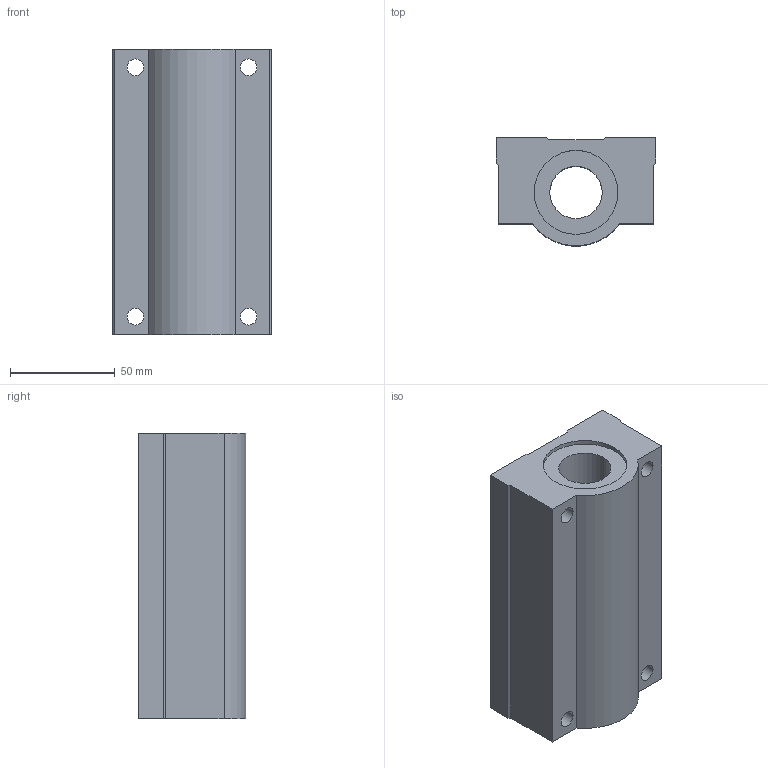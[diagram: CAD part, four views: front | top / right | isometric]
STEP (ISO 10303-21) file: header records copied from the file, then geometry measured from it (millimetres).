
FILE_DESCRIPTION((''),'2;1');
FILE_NAME('C:\Documents and Settings\ｿﾀﾀ蠑ｷ1\ｹﾙﾅﾁ ﾈｭｸ饅\ｺﾎﾇｰﾆﾄﾀﾏ\ﾁｦﾇｰ\SC__WUU\SC25WUU.stp','2005-06-22T14:55:12',('ｿﾀﾀ蠑ｷ1'),(''),'Autodesk Inventor 9','Autodesk Inventor 9','');
FILE_SCHEMA(('AUTOMOTIVE_DESIGN { 1 0 10303 214 1 1 1 1 }'));
Length unit declared in the file: millimetre
Products named in the file (1): SC__UU
Bounding box: 76 x 51.41 x 136 mm (x, y, z)
Volume: 375517.2 mm3; surface area: 52978.9 mm2
Topology: 1 solids, 1 shells, 32 faces, 84 edges, 56 vertices
Faces by surface type: plane 17, bspline 8, cylinder 7
Entity records: 1145 total; most frequent: CARTESIAN_POINT 309, ORIENTED_EDGE 168, DIRECTION 164, EDGE_CURVE 84, VERTEX_POINT 56, AXIS2_PLACEMENT_3D 55, VECTOR 54, LINE 54
